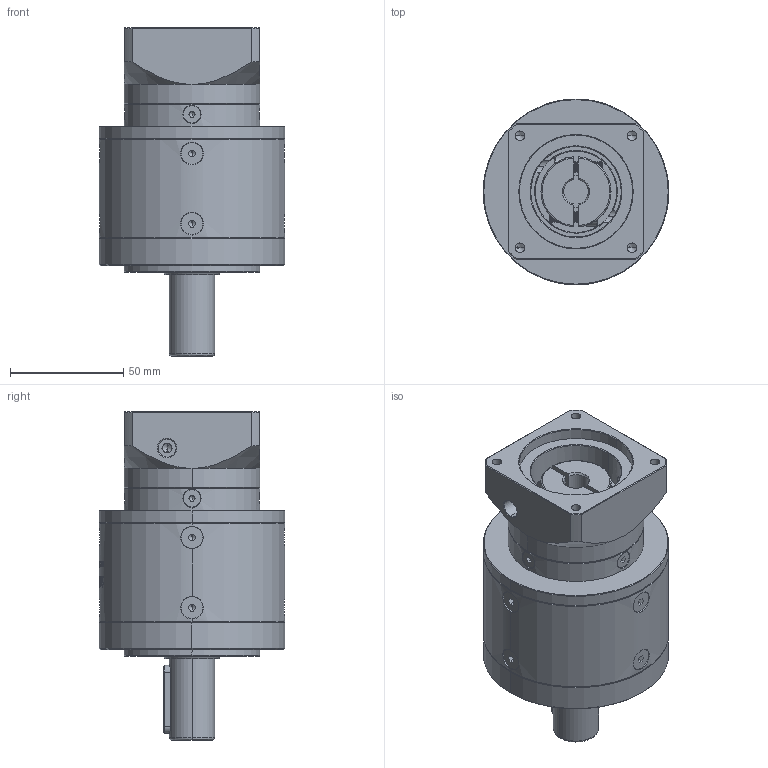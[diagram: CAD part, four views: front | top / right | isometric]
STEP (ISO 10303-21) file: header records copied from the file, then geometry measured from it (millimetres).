
FILE_DESCRIPTION (( 'STEP AP214' ), '1' );
FILE_NAME ('ZE80-D20-L2-11-50-70-M5.step', '2022-05-08T05:59:24', ( '' ), ( 'Microsoft' ), 'SwSTEP 2.0', 'SolidWorks 2016', '' );
FILE_SCHEMA (( 'AUTOMOTIVE_DESIGN' ));
Length unit declared in the file: millimetre
Products named in the file (1): ZE80-D20-L2-11-50-70-M5
Bounding box: 82 x 82 x 145 mm (x, y, z)
Volume: 443694.1 mm3; surface area: 64003.7 mm2
Topology: 18 solids, 18 shells, 1987 faces, 5191 edges, 3295 vertices
Faces by surface type: plane 935, cylinder 397, bspline 328, cone 313, torus 14
Entity records: 106747 total; most frequent: CARTESIAN_POINT 39505, ORIENTED_EDGE 10290, DIRECTION 8212, EDGE_CURVE 5145, VERTEX_POINT 3295, LINE 2810, VECTOR 2810, AXIS2_PLACEMENT_3D 2701
